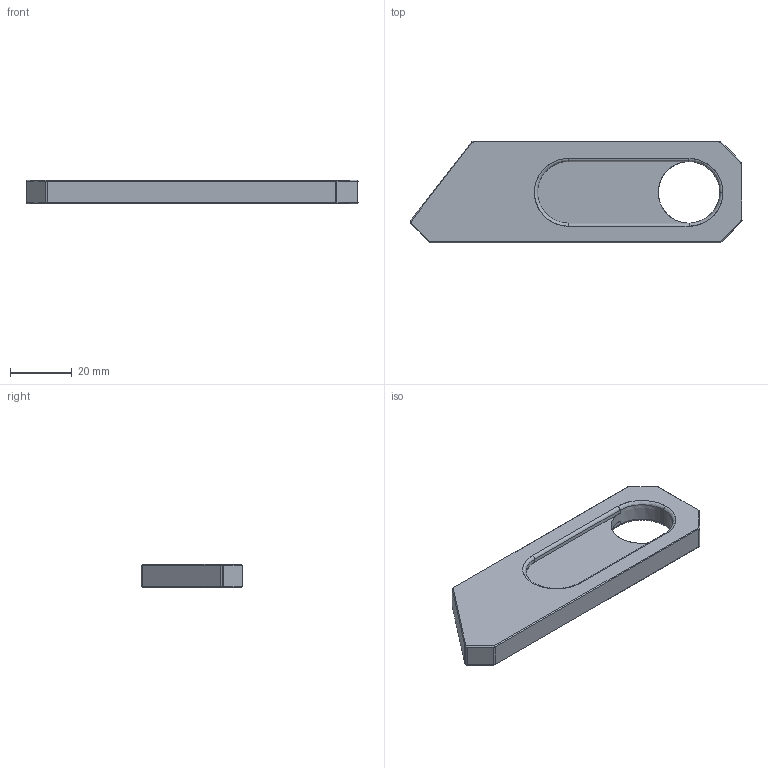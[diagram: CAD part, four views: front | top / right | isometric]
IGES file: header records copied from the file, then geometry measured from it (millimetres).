
Start section: SolidWorks IGES file using analytic representation for surfaces
Global section: file name: C:\Users\Switch\Desktop\video projects\giaco\outsideBoxStickers\3d\done\lowfi\MakerKnifeVolume.IGS; native system: SolidWorks 2017; preprocessor: SolidWorks 2017; author: Switch; date: 181106.170735; units: millimetre
Bounding box: 107.94 x 33.1 x 7.65 mm (x, y, z)
Surface area: 8427.6 mm2 (no closed solid volume)
Topology: 0 solids, 0 shells, 67 faces, 450 edges, 450 vertices
Faces by surface type: bspline 35, revolution 32
